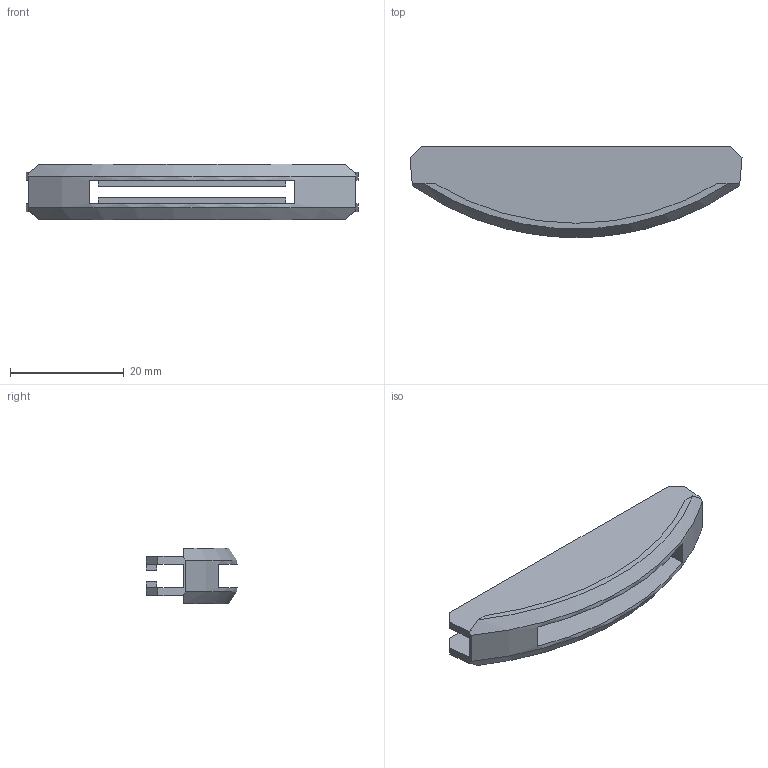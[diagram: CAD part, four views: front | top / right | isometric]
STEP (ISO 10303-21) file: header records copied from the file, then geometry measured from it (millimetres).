
FILE_DESCRIPTION(/* description */ (''),/* implementation_level */ '2;1');
FILE_NAME(/* name */ 'C:\Users\matthiask.LAMELLONET\Desktop\Öfftentliche Daten\CAD-Divario P-18\Divario_P-18_Verbinderhaelfte_fuer_P-System_Nut.stp',/* time_stamp */ '2022-06-30T13:31:56+02:00',/* author */ ('matthiask'),/* organization */ (''),/* preprocessor_version */ 'ST-DEVELOPER v18',/* originating_system */ 'Autodesk Inventor 2020',/* authorisation */ '');
FILE_SCHEMA (('AUTOMOTIVE_DESIGN { 1 0 10303 214 3 1 1 }'));
Length unit declared in the file: millimetre
Products named in the file (1): 335341 verfremdet neu
Bounding box: 58.34 x 16 x 9.8 mm (x, y, z)
Volume: 2774.7 mm3; surface area: 3829.8 mm2
Topology: 1 solids, 1 shells, 38 faces, 108 edges, 72 vertices
Faces by surface type: plane 31, cylinder 5, cone 2
Entity records: 1267 total; most frequent: CARTESIAN_POINT 235, ORIENTED_EDGE 216, DIRECTION 196, EDGE_CURVE 108, LINE 82, VECTOR 82, VERTEX_POINT 72, AXIS2_PLACEMENT_3D 57
